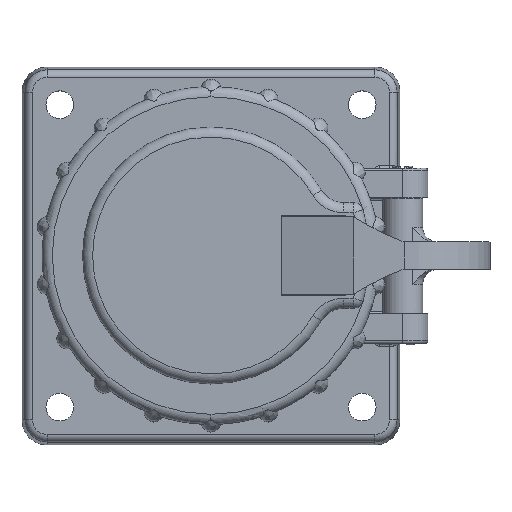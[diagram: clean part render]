
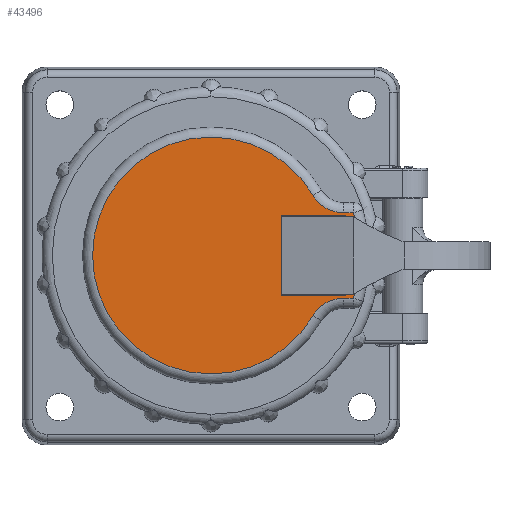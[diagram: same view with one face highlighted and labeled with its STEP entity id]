
A CAD part, top view. The second image highlights one B-rep face of the part: STEP entity #43496.
In plain terms, the highlighted planar face has unit normal (0, 0, 1).
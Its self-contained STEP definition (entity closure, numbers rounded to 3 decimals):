
#1336=CARTESIAN_POINT('',(0.,0.,55.9));
#1337=DIRECTION('',(0.,0.,1.));
#1338=DIRECTION('',(0.958,-0.288,0.));
#1339=AXIS2_PLACEMENT_3D('',#1336,#1337,#1338);
#1368=DIRECTION('',(1.,0.,0.));
#1369=VECTOR('',#1368,12.605);
#1370=CARTESIAN_POINT('',(14.,8.,55.9));
#1371=LINE('4248',#1370,#1369);
#1375=DIRECTION('',(0.,1.,0.));
#1376=VECTOR('',#1375,16.);
#1377=CARTESIAN_POINT('',(14.,-8.,55.9));
#1378=LINE('4251',#1377,#1376);
#1382=DIRECTION('',(1.,0.,0.));
#1383=VECTOR('',#1382,12.605);
#1384=CARTESIAN_POINT('',(14.,-8.,55.9));
#1385=LINE('4249',#1384,#1383);
#1389=DIRECTION('',(0.,1.,0.));
#1390=VECTOR('',#1389,16.);
#1391=CARTESIAN_POINT('',(26.605,-8.,55.9));
#1392=LINE('4250',#1391,#1390);
#1396=CARTESIAN_POINT('',(0.,0.,55.9));
#1397=DIRECTION('',(0.,0.,1.));
#1398=DIRECTION('',(0.861,0.508,0.));
#1399=AXIS2_PLACEMENT_3D('',#1396,#1397,#1398);
#1420=CARTESIAN_POINT('',(26.268,-15.5,55.9));
#1421=DIRECTION('',(0.,0.,-1.));
#1422=DIRECTION('',(-0.861,0.508,0.));
#1423=AXIS2_PLACEMENT_3D('',#1420,#1421,#1422);
#1444=DIRECTION('',(1.,0.,0.));
#1445=VECTOR('',#1444,1.981);
#1446=CARTESIAN_POINT('',(26.268,-8.5,55.9));
#1447=LINE('4260',#1446,#1445);
#1548=CARTESIAN_POINT('',(26.268,15.5,55.9));
#1549=DIRECTION('',(0.,0.,-1.));
#1550=DIRECTION('',(0.,-1.,0.));
#1551=AXIS2_PLACEMENT_3D('',#1548,#1549,#1550);
#1572=DIRECTION('',(-1.,0.,0.));
#1573=VECTOR('',#1572,1.981);
#1574=CARTESIAN_POINT('',(28.249,8.5,55.9));
#1575=LINE('4266',#1574,#1573);
#39552=CARTESIAN_POINT('',(14.,8.,55.9));
#39553=CARTESIAN_POINT('',(26.605,8.,55.9));
#39554=VERTEX_POINT('',#39552);
#39555=VERTEX_POINT('',#39553);
#39556=CARTESIAN_POINT('',(14.,-8.,55.9));
#39557=CARTESIAN_POINT('',(26.605,-8.,55.9));
#39558=VERTEX_POINT('',#39556);
#39559=VERTEX_POINT('',#39557);
#39564=CARTESIAN_POINT('',(20.239,11.943,55.9));
#39565=CARTESIAN_POINT('',(20.239,-11.943,55.9));
#39566=VERTEX_POINT('',#39564);
#39567=VERTEX_POINT('',#39565);
#39572=CARTESIAN_POINT('',(26.268,-8.5,55.9));
#39573=VERTEX_POINT('',#39572);
#39576=CARTESIAN_POINT('',(28.249,-8.5,55.9));
#39577=VERTEX_POINT('',#39576);
#39582=CARTESIAN_POINT('',(28.249,8.5,55.9));
#39583=VERTEX_POINT('',#39582);
#39588=CARTESIAN_POINT('',(26.268,8.5,55.9));
#39589=VERTEX_POINT('',#39588);
#43468=CARTESIAN_POINT('',(0.,0.,55.9));
#43469=DIRECTION('',(0.,0.,1.));
#43470=DIRECTION('',(0.,1.,0.));
#43471=AXIS2_PLACEMENT_3D('',#43468,#43469,#43470);
#43472=PLANE('1148',#43471);
#43474=ORIENTED_EDGE('4256',*,*,#43473,.F.);
#43476=ORIENTED_EDGE('4268',*,*,#43475,.F.);
#43478=ORIENTED_EDGE('4266',*,*,#43477,.F.);
#43479=ORIENTED_EDGE('4263',*,*,#43459,.F.);
#43481=ORIENTED_EDGE('4260',*,*,#43480,.F.);
#43483=ORIENTED_EDGE('4258',*,*,#43482,.F.);
#43484=EDGE_LOOP('1148',(#43474,#43476,#43478,#43479,#43481,#43483));
#43485=FACE_OUTER_BOUND('1148',#43484,.F.);
#43487=ORIENTED_EDGE('4248',*,*,#43486,.F.);
#43489=ORIENTED_EDGE('4251',*,*,#43488,.F.);
#43491=ORIENTED_EDGE('4249',*,*,#43490,.T.);
#43493=ORIENTED_EDGE('4250',*,*,#43492,.T.);
#43494=EDGE_LOOP('1148',(#43487,#43489,#43491,#43493));
#43495=FACE_BOUND('1148',#43494,.F.);
#1340=CIRCLE('4263',#1339,29.5);
#1400=CIRCLE('4256',#1399,23.5);
#1424=CIRCLE('4258',#1423,7.);
#1552=CIRCLE('4268',#1551,7.);
#43459=EDGE_CURVE('4263',#39577,#39583,#1340,.T.);
#43473=EDGE_CURVE('4256',#39566,#39567,#1400,.T.);
#43475=EDGE_CURVE('4268',#39589,#39566,#1552,.T.);
#43477=EDGE_CURVE('4266',#39583,#39589,#1575,.T.);
#43480=EDGE_CURVE('4260',#39573,#39577,#1447,.T.);
#43482=EDGE_CURVE('4258',#39567,#39573,#1424,.T.);
#43486=EDGE_CURVE('4248',#39554,#39555,#1371,.T.);
#43488=EDGE_CURVE('4251',#39558,#39554,#1378,.T.);
#43490=EDGE_CURVE('4249',#39558,#39559,#1385,.T.);
#43492=EDGE_CURVE('4250',#39559,#39555,#1392,.T.);
#43496=ADVANCED_FACE('1148',(#43485,#43495),#43472,.T.);
